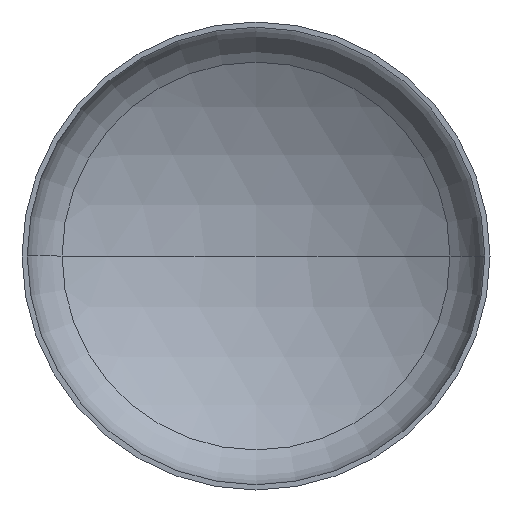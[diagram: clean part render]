
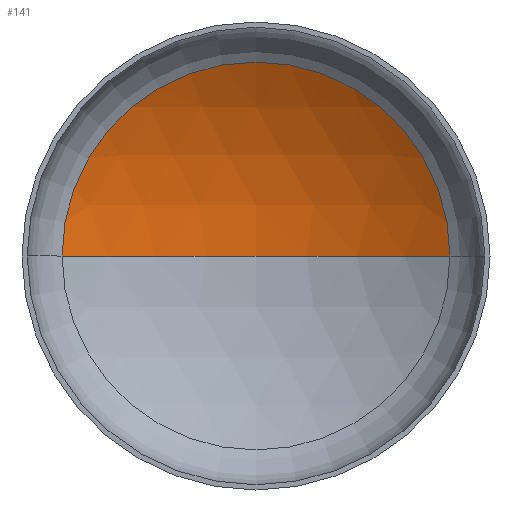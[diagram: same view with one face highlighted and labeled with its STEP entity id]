
A CAD part, front view. The second image highlights one B-rep face of the part: STEP entity #141.
In plain terms, the highlighted spherical face has radius 1920 mm.
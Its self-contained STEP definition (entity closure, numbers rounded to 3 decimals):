
#22 = EDGE_LOOP ( 'NONE', ( #123, #127, #90 ) ) ;
#29 = DIRECTION ( 'NONE',  ( 1., 0., 0. ) ) ;
#35 = DIRECTION ( 'NONE',  ( 0., 0., 1. ) ) ;
#41 = AXIS2_PLACEMENT_3D ( 'NONE', #252, #250, #248 ) ;
#42 = AXIS2_PLACEMENT_3D ( 'NONE', #180, #35, #29 ) ;
#43 = AXIS2_PLACEMENT_3D ( 'NONE', #404, #257, #273 ) ;
#45 = AXIS2_PLACEMENT_3D ( 'NONE', #225, #215, #200 ) ;
#48 = VERTEX_POINT ( 'NONE', #300 ) ;
#90 = ORIENTED_EDGE ( 'NONE', *, *, #164, .T. ) ;
#96 = VERTEX_POINT ( 'NONE', #311 ) ;
#123 = ORIENTED_EDGE ( 'NONE', *, *, #193, .F. ) ;
#127 = ORIENTED_EDGE ( 'NONE', *, *, #186, .T. ) ;
#131 = VERTEX_POINT ( 'NONE', #381 ) ;
#141 = ADVANCED_FACE ( 'NONE', ( #151 ), #280, .F. ) ;
#151 = FACE_OUTER_BOUND ( 'NONE', #22, .T. ) ;
#164 = EDGE_CURVE ( 'NONE', #131, #96, #228, .T. ) ;
#180 = CARTESIAN_POINT ( 'NONE',  ( 0., -1240.779, 0. ) ) ;
#186 = EDGE_CURVE ( 'NONE', #48, #131, #384, .T. ) ;
#193 = EDGE_CURVE ( 'NONE', #48, #96, #268, .T. ) ;
#200 = DIRECTION ( 'NONE',  ( -1., 0., 0. ) ) ;
#215 = DIRECTION ( 'NONE',  ( 0., 0., -1. ) ) ;
#225 = CARTESIAN_POINT ( 'NONE',  ( 0., -1240.779, 0. ) ) ;
#228 = CIRCLE ( 'NONE', #43, 994.684 ) ;
#248 = DIRECTION ( 'NONE',  ( -1., 0., 0. ) ) ;
#250 = DIRECTION ( 'NONE',  ( 0., 0., -1. ) ) ;
#252 = CARTESIAN_POINT ( 'NONE',  ( 0., -1240.779, 0. ) ) ;
#257 = DIRECTION ( 'NONE',  ( 0., -1., 0. ) ) ;
#268 = CIRCLE ( 'NONE', #42, 1920. ) ;
#273 = DIRECTION ( 'NONE',  ( 1., 0., 0. ) ) ;
#280 = SPHERICAL_SURFACE ( 'NONE', #45, 1920. ) ;
#300 = CARTESIAN_POINT ( 'NONE',  ( 0., 679.221, 0. ) ) ;
#311 = CARTESIAN_POINT ( 'NONE',  ( -994.684, 401.476, 0. ) ) ;
#381 = CARTESIAN_POINT ( 'NONE',  ( 994.684, 401.476, 0. ) ) ;
#384 = CIRCLE ( 'NONE', #41, 1920. ) ;
#404 = CARTESIAN_POINT ( 'NONE',  ( 0., 401.476, 0. ) ) ;
